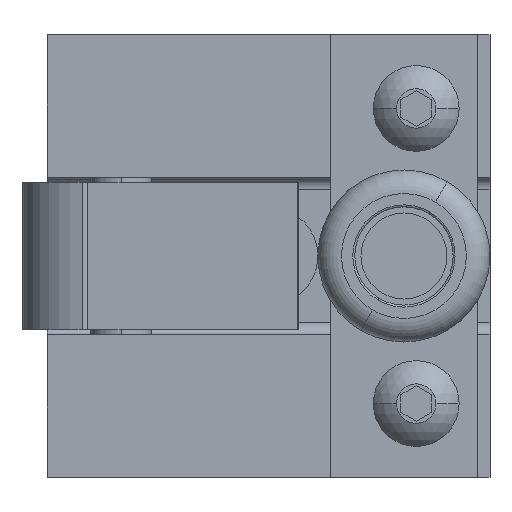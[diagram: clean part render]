
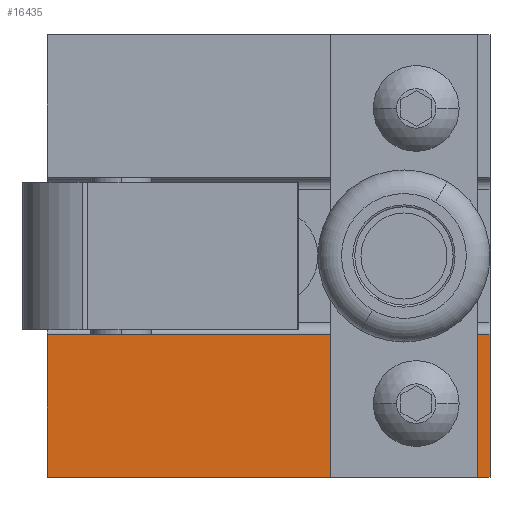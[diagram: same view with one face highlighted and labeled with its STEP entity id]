
A CAD part, left-side view. The second image highlights one B-rep face of the part: STEP entity #16435.
In plain terms, the highlighted planar face has unit normal (-1, 0, 0).
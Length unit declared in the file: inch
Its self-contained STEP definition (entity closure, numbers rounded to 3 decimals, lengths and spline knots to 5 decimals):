
#139 = EDGE_CURVE ( 'NONE', #227, #228, #648, .T. ) ;
#149 = VERTEX_POINT ( 'NONE', #698 ) ;
#186 = VERTEX_POINT ( 'NONE', #766 ) ;
#227 = VERTEX_POINT ( 'NONE', #849 ) ;
#228 = VERTEX_POINT ( 'NONE', #848 ) ;
#235 = EDGE_CURVE ( 'NONE', #186, #149, #899, .T. ) ;
#644 = DIRECTION ( 'NONE',  ( 0., 0., 1. ) ) ;
#645 = DIRECTION ( 'NONE',  ( -1., 0., 0. ) ) ;
#646 = CARTESIAN_POINT ( 'NONE',  ( 2.43951, 4.12904, -1.875 ) ) ;
#647 = AXIS2_PLACEMENT_3D ( 'NONE', #646, #645, #644 ) ;
#648 = CIRCLE ( 'NONE', #647, 0.125 ) ;
#698 = CARTESIAN_POINT ( 'NONE',  ( 2.43951, 6.00404, -1.525 ) ) ;
#766 = CARTESIAN_POINT ( 'NONE',  ( 2.43951, 6.00404, -2.25 ) ) ;
#848 = CARTESIAN_POINT ( 'NONE',  ( 2.43951, 4.12904, -1.75 ) ) ;
#849 = CARTESIAN_POINT ( 'NONE',  ( 2.43951, 4.12904, -2. ) ) ;
#896 = DIRECTION ( 'NONE',  ( 0., 0., 1. ) ) ;
#897 = VECTOR ( 'NONE', #896, 39.37008 ) ;
#898 = CARTESIAN_POINT ( 'NONE',  ( 2.43951, 6.00404, -2.25 ) ) ;
#899 = LINE ( 'NONE', #898, #897 ) ;
#3448 = VECTOR ( 'NONE', #3557, 39.37008 ) ;
#3449 = CARTESIAN_POINT ( 'NONE',  ( 2.43951, 3.75404, -2.25 ) ) ;
#3450 = LINE ( 'NONE', #3449, #3448 ) ;
#3452 = DIRECTION ( 'NONE',  ( 0., 0., 1. ) ) ;
#3453 = VECTOR ( 'NONE', #3452, 39.37008 ) ;
#3478 = CARTESIAN_POINT ( 'NONE',  ( 2.43951, 3.75404, -1.525 ) ) ;
#3526 = CARTESIAN_POINT ( 'NONE',  ( 2.43951, 3.75404, -2.25 ) ) ;
#3527 = LINE ( 'NONE', #3526, #3453 ) ;
#3528 = CARTESIAN_POINT ( 'NONE',  ( 2.43951, 3.75404, -2.25 ) ) ;
#3557 = DIRECTION ( 'NONE',  ( 0., -1., 0. ) ) ;
#3584 = DIRECTION ( 'NONE',  ( 0., 0., 1. ) ) ;
#3585 = DIRECTION ( 'NONE',  ( -1., 0., 0. ) ) ;
#3586 = CARTESIAN_POINT ( 'NONE',  ( 2.43951, 4.12904, -1.875 ) ) ;
#3587 = AXIS2_PLACEMENT_3D ( 'NONE', #3586, #3585, #3584 ) ;
#3629 = FACE_BOUND ( 'NONE', #16436, .T. ) ;
#3632 = DIRECTION ( 'NONE',  ( 0., -1., 0. ) ) ;
#3633 = VECTOR ( 'NONE', #3632, 39.37008 ) ;
#3634 = CARTESIAN_POINT ( 'NONE',  ( 2.43951, 3.75404, -1.525 ) ) ;
#3635 = LINE ( 'NONE', #3634, #3633 ) ;
#3668 = CIRCLE ( 'NONE', #3587, 0.125 ) ;
#3669 = DIRECTION ( 'NONE',  ( 0., 0., 1. ) ) ;
#3670 = DIRECTION ( 'NONE',  ( -1., 0., 0. ) ) ;
#3671 = CARTESIAN_POINT ( 'NONE',  ( 2.43951, 3.75404, -2.25 ) ) ;
#3689 = AXIS2_PLACEMENT_3D ( 'NONE', #3671, #3670, #3669 ) ;
#3690 = PLANE ( 'NONE',  #3689 ) ;
#3691 = FACE_OUTER_BOUND ( 'NONE', #16459, .T. ) ;
#16364 = VERTEX_POINT ( 'NONE', #3528 ) ;
#16365 = ORIENTED_EDGE ( 'NONE', *, *, #16366, .T. ) ;
#16366 = EDGE_CURVE ( 'NONE', #16364, #16390, #3527, .T. ) ;
#16369 = ORIENTED_EDGE ( 'NONE', *, *, #16370, .T. ) ;
#16370 = EDGE_CURVE ( 'NONE', #186, #16364, #3450, .T. ) ;
#16390 = VERTEX_POINT ( 'NONE', #3478 ) ;
#16391 = ORIENTED_EDGE ( 'NONE', *, *, #235, .F. ) ;
#16435 = ADVANCED_FACE ( 'NONE', ( #3629, #3691 ), #3690, .T. ) ;
#16436 = EDGE_LOOP ( 'NONE', ( #16437, #16460 ) ) ;
#16437 = ORIENTED_EDGE ( 'NONE', *, *, #16438, .F. ) ;
#16438 = EDGE_CURVE ( 'NONE', #228, #227, #3668, .T. ) ;
#16459 = EDGE_LOOP ( 'NONE', ( #16461, #16391, #16369, #16365 ) ) ;
#16460 = ORIENTED_EDGE ( 'NONE', *, *, #139, .F. ) ;
#16461 = ORIENTED_EDGE ( 'NONE', *, *, #16462, .F. ) ;
#16462 = EDGE_CURVE ( 'NONE', #149, #16390, #3635, .T. ) ;
